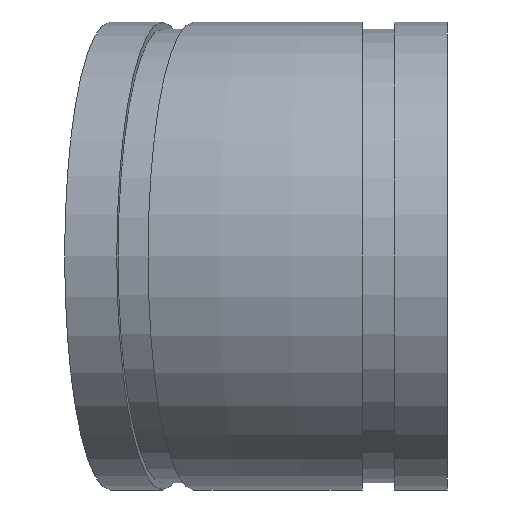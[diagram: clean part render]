
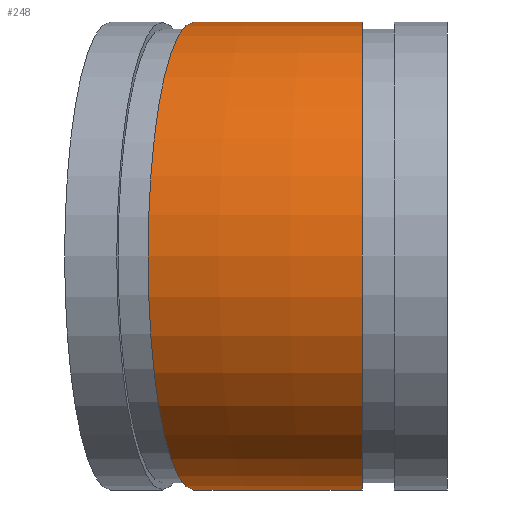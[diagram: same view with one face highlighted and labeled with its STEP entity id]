
A CAD part, left-side view. The second image highlights one B-rep face of the part: STEP entity #248.
In plain terms, the highlighted toroidal (fillet/blend) face has major radius 257.89 mm and minor radius 69.85 mm.
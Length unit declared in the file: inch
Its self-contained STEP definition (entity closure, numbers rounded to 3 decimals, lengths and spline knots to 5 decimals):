
#15=TOROIDAL_SURFACE('',#303,10.15317,2.75);
#47=FACE_OUTER_BOUND('',#65,.T.);
#65=EDGE_LOOP('',(#190,#191,#192,#193,#194,#195));
#79=CIRCLE('',#283,2.75);
#80=CIRCLE('',#284,2.75);
#86=CIRCLE('',#293,2.75);
#87=CIRCLE('',#294,2.75);
#95=CIRCLE('',#304,7.40317);
#105=VERTEX_POINT('',#418);
#106=VERTEX_POINT('',#419);
#112=VERTEX_POINT('',#436);
#113=VERTEX_POINT('',#437);
#130=EDGE_CURVE('',#105,#106,#79,.T.);
#131=EDGE_CURVE('',#106,#105,#80,.T.);
#138=EDGE_CURVE('',#112,#113,#86,.T.);
#139=EDGE_CURVE('',#113,#112,#87,.T.);
#147=EDGE_CURVE('',#113,#106,#95,.T.);
#190=ORIENTED_EDGE('',*,*,#138,.T.);
#191=ORIENTED_EDGE('',*,*,#147,.T.);
#192=ORIENTED_EDGE('',*,*,#131,.T.);
#193=ORIENTED_EDGE('',*,*,#130,.T.);
#194=ORIENTED_EDGE('',*,*,#147,.F.);
#195=ORIENTED_EDGE('',*,*,#139,.T.);
#248=ADVANCED_FACE('',(#47),#15,.T.);
#283=AXIS2_PLACEMENT_3D('',#420,#334,#335);
#284=AXIS2_PLACEMENT_3D('',#421,#336,#337);
#293=AXIS2_PLACEMENT_3D('',#438,#355,#356);
#294=AXIS2_PLACEMENT_3D('',#439,#357,#358);
#303=AXIS2_PLACEMENT_3D('',#454,#375,#376);
#304=AXIS2_PLACEMENT_3D('',#455,#377,#378);
#334=DIRECTION('center_axis',(0.,1.,0.));
#335=DIRECTION('ref_axis',(1.,0.,0.));
#336=DIRECTION('center_axis',(0.,1.,0.));
#337=DIRECTION('ref_axis',(1.,0.,0.));
#355=DIRECTION('center_axis',(-0.195,-0.981,0.));
#356=DIRECTION('ref_axis',(0.981,-0.195,0.));
#357=DIRECTION('center_axis',(-0.195,-0.981,0.));
#358=DIRECTION('ref_axis',(0.981,-0.195,0.));
#375=DIRECTION('center_axis',(0.,0.,-1.));
#376=DIRECTION('ref_axis',(-1.,0.,0.));
#377=DIRECTION('center_axis',(0.,0.,1.));
#378=DIRECTION('ref_axis',(-1.,0.,0.));
#418=CARTESIAN_POINT('',(0.,1.,2.75));
#419=CARTESIAN_POINT('',(2.75,1.,0.));
#420=CARTESIAN_POINT('Origin',(0.,1.,0.));
#421=CARTESIAN_POINT('Origin',(0.,1.,0.));
#436=CARTESIAN_POINT('',(0.19509,2.98079,2.75));
#437=CARTESIAN_POINT('',(2.89225,2.44429,0.));
#438=CARTESIAN_POINT('Origin',(0.19509,2.98079,0.));
#439=CARTESIAN_POINT('Origin',(0.19509,2.98079,0.));
#454=CARTESIAN_POINT('Origin',(10.15317,1.,0.));
#455=CARTESIAN_POINT('Origin',(10.15317,1.,0.));
